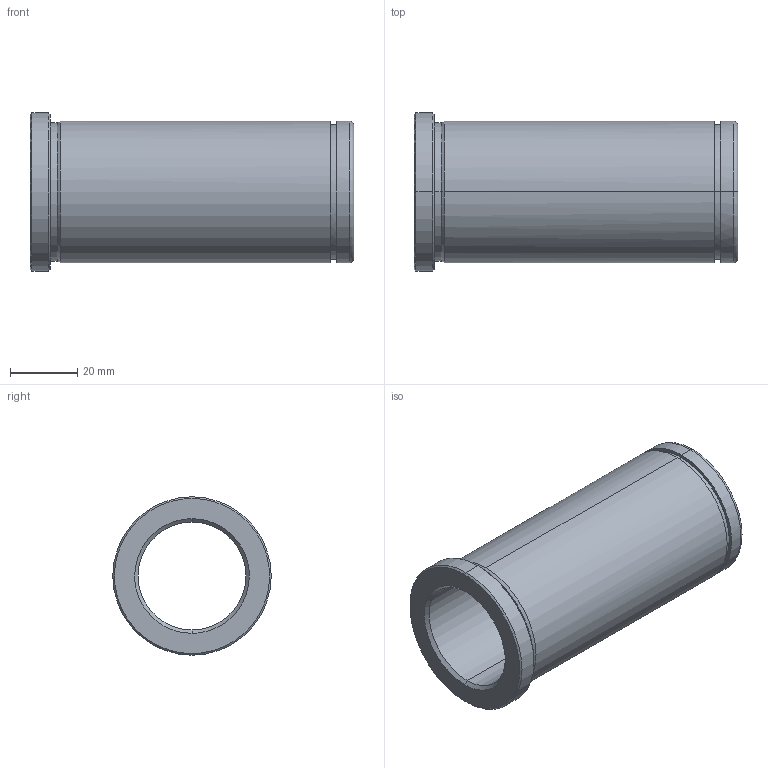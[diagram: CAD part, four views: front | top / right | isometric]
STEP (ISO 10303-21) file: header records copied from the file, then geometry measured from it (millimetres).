
FILE_DESCRIPTION(('CATIA V5 STEP Exchange'),'2;1');
FILE_NAME('C:\Users\Utente\Desktop\IO LAVORO\3D X SITO CF\X SITO\PLASTICA\553\553-32X96.stp','2021-05-26T18:42:59+00:00',('none'),('none'),'CATIA Version 5 Release 20 GA (IN-10)','CATIA V5 STEP AP203','none');
FILE_SCHEMA(('CONFIG_CONTROL_DESIGN'));
Length unit declared in the file: millimetre
Products named in the file (1): 553-32X96
Bounding box: 96 x 47 x 47 mm (x, y, z)
Volume: 57226.9 mm3; surface area: 24276.1 mm2
Topology: 1 solids, 1 shells, 29 faces, 92 edges, 68 vertices
Faces by surface type: cylinder 12, cone 8, plane 5, torus 4
Entity records: 1228 total; most frequent: CARTESIAN_POINT 378, ORIENTED_EDGE 184, DIRECTION 134, EDGE_CURVE 92, AXIS2_PLACEMENT_3D 86, VERTEX_POINT 68, CIRCLE 56, EDGE_LOOP 34
